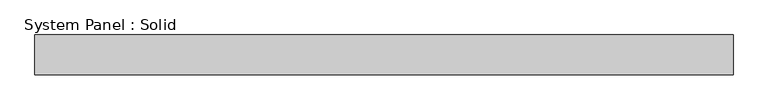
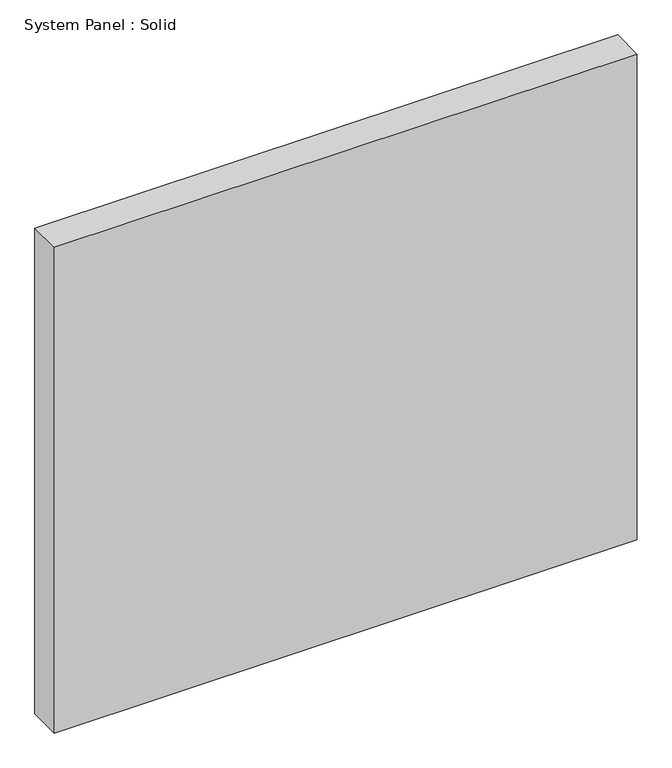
"""IFC4 building model written with IfcOpenShell, lengths in millimetres: plate geometry, System Panel : Solid."""

from ifc_helpers import new_model, si_unit, origin, origin_with_axes, place, context, project, spatial, polyline, outline, extrude, source, transform, mapped, element, save


def system_panel_solid_585523e5(model_context):
    return source(origin(), model_context, "Body", "SweptSolid", [
        extrude(outline(polyline([(525.0, -10.5), (-525.0, -10.5), (-525.0, 49.5), (525.0, 49.5), (525.0, -10.5)])), origin_with_axes(), (0.0, 0.0, 1.0), 925.0),
    ])


if __name__ == "__main__":
    model = new_model("IFC4")
    model_context = context("Model", 3, world=origin())
    ifc_project = project(units=[si_unit("LENGTHUNIT", "METRE", prefix="MILLI")], contexts=[model_context])
    site = spatial("IfcSite", under=ifc_project)
    building = spatial("IfcBuilding", under=site)
    placement = place(None, origin())
    system_panel_solid_shape = system_panel_solid_585523e5(model_context)
    element("IfcPlate", 1, ObjectType="System Panel : Solid", at=placement, inside=building, context=model_context, shape_type="MappedRepresentation", body=[
        mapped(system_panel_solid_shape, transform((0.0, 0.0, 0.0), x_axis=(1.0, 0.0, 0.0), y_axis=(0.0, 1.0, 0.0), z_axis=(0.0, 0.0, 1.0))),
    ])
    save(model, "model.ifc")
